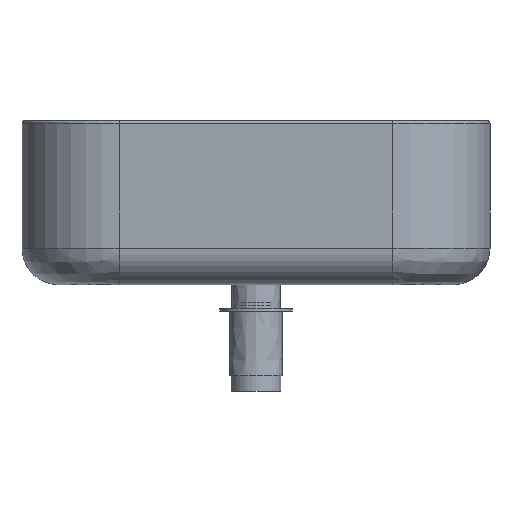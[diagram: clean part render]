
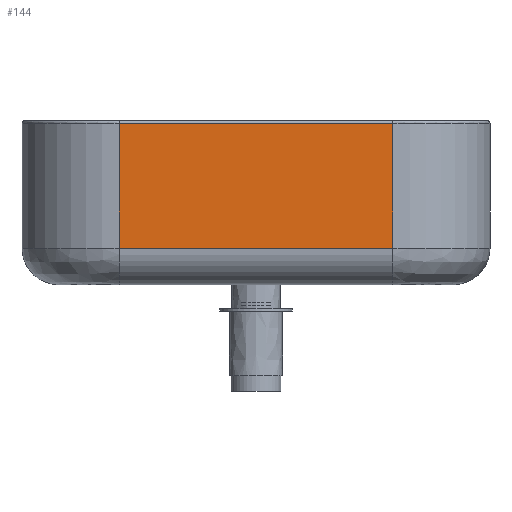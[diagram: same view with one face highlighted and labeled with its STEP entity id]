
A CAD part, front view. The second image highlights one B-rep face of the part: STEP entity #144.
In plain terms, the highlighted planar face has unit normal (0, -1, 0).
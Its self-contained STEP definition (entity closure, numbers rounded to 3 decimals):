
#144=ADVANCED_FACE('',(#472),#4369,.T.);
#472=FACE_OUTER_BOUND('',#786,.T.);
#786=EDGE_LOOP('',(#1416,#1417,#1418,#1419));
#1416=ORIENTED_EDGE('',*,*,#2374,.T.);
#1417=ORIENTED_EDGE('',*,*,#2554,.T.);
#1418=ORIENTED_EDGE('',*,*,#2538,.F.);
#1419=ORIENTED_EDGE('',*,*,#2555,.F.);
#2374=EDGE_CURVE('',#3975,#3968,#3594,.T.);
#2538=EDGE_CURVE('',#4001,#4000,#3622,.T.);
#2554=EDGE_CURVE('',#3968,#4000,#3101,.T.);
#2555=EDGE_CURVE('',#3975,#4001,#3102,.T.);
#3101=(
BOUNDED_CURVE()
B_SPLINE_CURVE(1,(#9663,#9664),.UNSPECIFIED.,.F.,.F.)
B_SPLINE_CURVE_WITH_KNOTS((2,2),(2.3,105.),.UNSPECIFIED.)
CURVE()
GEOMETRIC_REPRESENTATION_ITEM()
RATIONAL_B_SPLINE_CURVE((1.,1.))
REPRESENTATION_ITEM('')
);
#3102=(
BOUNDED_CURVE()
B_SPLINE_CURVE(1,(#9665,#9666),.UNSPECIFIED.,.F.,.F.)
B_SPLINE_CURVE_WITH_KNOTS((2,2),(2.3,105.),.UNSPECIFIED.)
CURVE()
GEOMETRIC_REPRESENTATION_ITEM()
RATIONAL_B_SPLINE_CURVE((1.,1.))
REPRESENTATION_ITEM('')
);
#3594=B_SPLINE_CURVE_WITH_KNOTS('',1,(#8574,#8575),.UNSPECIFIED.,.F.,.F.,
(2,2),(0.,225.),.UNSPECIFIED.);
#3622=B_SPLINE_CURVE_WITH_KNOTS('',1,(#9619,#9620),.UNSPECIFIED.,.F.,.F.,
(2,2),(0.,225.),.UNSPECIFIED.);
#3968=VERTEX_POINT('',#8373);
#3975=VERTEX_POINT('',#8380);
#4000=VERTEX_POINT('',#8405);
#4001=VERTEX_POINT('',#8406);
#4369=PLANE('',#4705);
#4705=AXIS2_PLACEMENT_3D('',#8285,#5134,$);
#5134=DIRECTION('',(0.,-1.,0.));
#8285=CARTESIAN_POINT('',(3081.241,-192.5,-1391.419));
#8373=CARTESIAN_POINT('',(2856.241,-192.5,-1393.719));
#8380=CARTESIAN_POINT('',(3081.241,-192.5,-1393.719));
#8405=CARTESIAN_POINT('',(2856.241,-192.5,-1496.419));
#8406=CARTESIAN_POINT('',(3081.241,-192.5,-1496.419));
#8574=CARTESIAN_POINT('',(3081.241,-192.5,-1393.719));
#8575=CARTESIAN_POINT('',(2856.241,-192.5,-1393.719));
#9619=CARTESIAN_POINT('',(3081.241,-192.5,-1496.419));
#9620=CARTESIAN_POINT('',(2856.241,-192.5,-1496.419));
#9663=CARTESIAN_POINT('',(2856.241,-192.5,-1393.719));
#9664=CARTESIAN_POINT('',(2856.241,-192.5,-1496.419));
#9665=CARTESIAN_POINT('',(3081.241,-192.5,-1393.719));
#9666=CARTESIAN_POINT('',(3081.241,-192.5,-1496.419));
